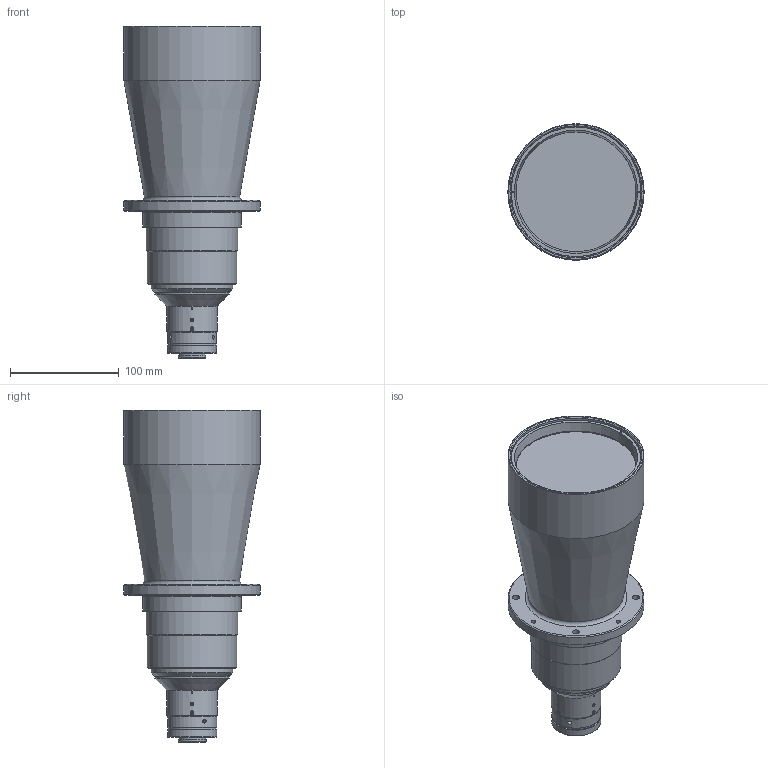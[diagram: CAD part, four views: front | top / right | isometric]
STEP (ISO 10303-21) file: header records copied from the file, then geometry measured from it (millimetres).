
FILE_DESCRIPTION (( 'STEP AP203' ), '1' );
FILE_NAME ('3d_mtl-9011c-012-a003.STEP', '2017-06-16T01:13:50', ( '' ), ( '' ), 'SwSTEP 2.0', 'SolidWorks 2014', '' );
FILE_SCHEMA (( 'CONFIG_CONTROL_DESIGN' ));
Length unit declared in the file: millimetre
Products named in the file (1): 3d_mtl-9011c-012-a003
Bounding box: 125 x 125 x 304.59 mm (x, y, z)
Volume: 2084384.2 mm3; surface area: 125467.2 mm2
Topology: 1 solids, 13 shells, 614 faces, 1395 edges, 845 vertices
Faces by surface type: plane 335, cone 181, cylinder 63, torus 21, sphere 8, bspline 6
Full cylindrical faces by diameter (mm): 1.6 x4, 2.5 x3, 3.5 x8, 3.6 x3, 3.8 x3, 4.2 x4, 4.4 x3, 6.6 x4, 16.5 x1, 20 x1, 21.5 x1, 22.5 x1, 24 x1, 24.5 x1, 24.7 x1, 25 x1, 25.4 x1, 27 x1, 30 x2, 44 x1, 45 x2, 46 x1, 68 x1, 75 x1, 82 x1, 84 x1, 85 x1, 90 x1, 110 x1, 119.187 x1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
Entity records: 17029 total; most frequent: CARTESIAN_POINT 4117, DIRECTION 2761, ORIENTED_EDGE 2386, EDGE_CURVE 1193, AXIS2_PLACEMENT_3D 1147, EDGE_LOOP 835, VERTEX_POINT 794, FACE_OUTER_BOUND 701
